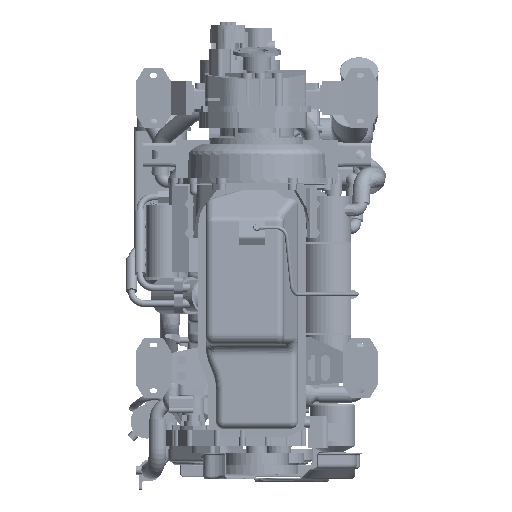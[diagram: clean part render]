
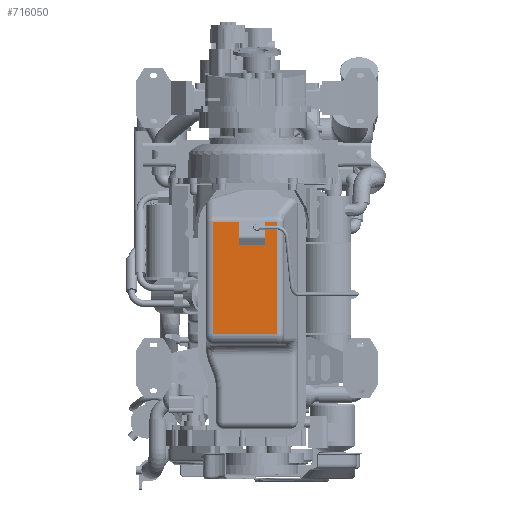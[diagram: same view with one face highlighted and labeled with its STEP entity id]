
A CAD part, front view. The second image highlights one B-rep face of the part: STEP entity #716050.
In plain terms, the highlighted planar face has unit normal (0, -0.999, 0.035).
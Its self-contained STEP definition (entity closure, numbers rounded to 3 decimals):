
#695160=CARTESIAN_POINT('',(-50.5,-209.256,-84.789));
#695170=VERTEX_POINT('',#695160);
#695320=CARTESIAN_POINT('',(21.5,-209.256,-84.789));
#695330=VERTEX_POINT('',#695320);
#695360=CARTESIAN_POINT('',(0.,-209.256,-84.789));
#695370=DIRECTION('',(-1.,0.,0.));
#695380=VECTOR('',#695370,1.);
#695390=LINE('',#695360,#695380);
#695400=EDGE_CURVE('',#695330,#695170,#695390,.T.);
#696210=CARTESIAN_POINT('',(-50.5,-206.295,0.));
#696220=DIRECTION('',(0.,-0.035,-0.999));
#696230=VECTOR('',#696220,1.);
#696240=LINE('',#696210,#696230);
#696250=CARTESIAN_POINT('',(-50.5,-207.067,-22.116));
#696260=VERTEX_POINT('',#696250);
#696270=EDGE_CURVE('',#696260,#695170,#696240,.T.);
#697470=CARTESIAN_POINT('',(0.,-207.067,-22.116));
#697480=DIRECTION('',(1.,0.,0.));
#697490=VECTOR('',#697480,1.);
#697500=LINE('',#697470,#697490);
#697510=CARTESIAN_POINT('',(-122.,-207.067,-22.116));
#697520=VERTEX_POINT('',#697510);
#697530=EDGE_CURVE('',#697520,#696260,#697500,.T.);
#712250=CARTESIAN_POINT('',(21.5,-207.067,-22.116));
#712260=VERTEX_POINT('',#712250);
#712350=CARTESIAN_POINT('',(54.864,-207.067,
-22.116));
#712360=VERTEX_POINT('',#712350);
#712390=EDGE_CURVE('',#712260,#712360,#697500,.T.);
#712710=CARTESIAN_POINT('',(54.864,-217.865,
-331.337));
#712720=VERTEX_POINT('',#712710);
#712750=CARTESIAN_POINT('',(54.864,-206.271,
0.698));
#712760=DIRECTION('',(0.,-0.035,-0.999));
#712770=VECTOR('',#712760,1.);
#712780=LINE('',#712750,#712770);
#712790=EDGE_CURVE('',#712360,#712720,#712780,.T.);
#713060=CARTESIAN_POINT('',(-122.,-217.865,-331.337));
#713070=VERTEX_POINT('',#713060);
#713100=CARTESIAN_POINT('',(0.,-217.865,-331.337));
#713110=DIRECTION('',(-1.,0.,0.));
#713120=VECTOR('',#713110,1.);
#713130=LINE('',#713100,#713120);
#713140=EDGE_CURVE('',#712720,#713070,#713130,.T.);
#714960=CARTESIAN_POINT('',(21.5,-206.295,0.));
#714970=DIRECTION('',(0.,0.035,0.999));
#714980=VECTOR('',#714970,1.);
#714990=LINE('',#714960,#714980);
#715000=EDGE_CURVE('',#695330,#712260,#714990,.T.);
#715720=CARTESIAN_POINT('',(-122.,-206.271,0.698));
#715730=DIRECTION('',(0.,0.035,0.999));
#715740=VECTOR('',#715730,1.);
#715750=LINE('',#715720,#715740);
#715760=EDGE_CURVE('',#713070,#697520,#715750,.T.);
#715900=CARTESIAN_POINT('',(-33.32,-217.768,-328.553))
;
#715910=DIRECTION('',(0.,0.999,-0.035));
#715920=DIRECTION('',(0.,-0.035,-0.999));
#715930=AXIS2_PLACEMENT_3D('',#715900,#715910,#715920);
#715940=PLANE('',#715930);
#715950=ORIENTED_EDGE('',*,*,#712790,.F.);
#715960=ORIENTED_EDGE('',*,*,#713140,.F.);
#715970=ORIENTED_EDGE('',*,*,#715760,.F.);
#715980=ORIENTED_EDGE('',*,*,#697530,.F.);
#715990=ORIENTED_EDGE('',*,*,#696270,.F.);
#716000=ORIENTED_EDGE('',*,*,#695400,.T.);
#716010=ORIENTED_EDGE('',*,*,#715000,.F.);
#716020=ORIENTED_EDGE('',*,*,#712390,.F.);
#716030=EDGE_LOOP('',(#716020,#716010,#716000,#715990,#715980,#715970,
#715960,#715950));
#716040=FACE_OUTER_BOUND('',#716030,.T.);
#716050=ADVANCED_FACE('',(#716040),#715940,.F.);
